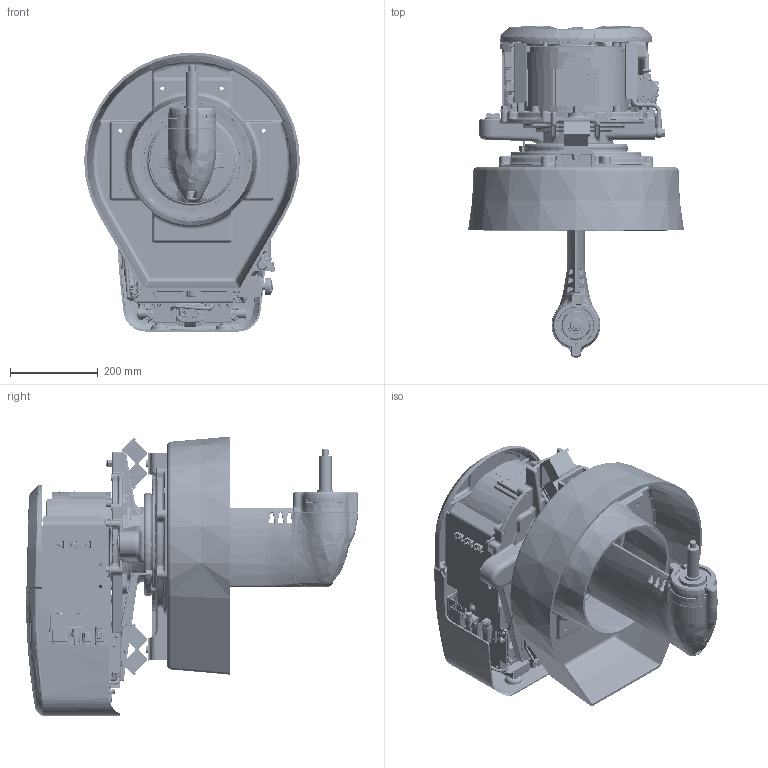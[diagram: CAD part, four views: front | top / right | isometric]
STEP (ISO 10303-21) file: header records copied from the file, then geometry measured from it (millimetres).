
FILE_DESCRIPTION((''),'2;1');
FILE_NAME('SDE_ASM','2024-11-04T17:39:04',('IB46307'),(''),'CREO PARAMETRIC BY PTC INC, 2022024','CREO PARAMETRIC BY PTC INC, 2022024','');
FILE_SCHEMA(('CONFIG_CONTROL_DESIGN'));
Length unit declared in the file: millimetre
Products named in the file (30): 596420E1_SW0010; 596420E1_SW0011; 596420E1_SW0011_ASM; 596420E1_SW0012; 596420E1_SW0012_ASM; 596420E1_SW0004; 596420E1_SW0003; DV5900-4520X_SW0001; DV5900-4200X_SW0001; DV5900-0900X_SW0001; DV5900-7615X_SW0001; DV5900-7700X_SW0002; DV5900-7310X_SW0001; DV5900-7720X_SW0001; 596420E1_SW0013; 596420E1_SW0013_ASM; SDE_BASE_ASM; DV5900-2240X_SW0001; DV5900-7540X_SW0001; DV5900-4940X_SW0001; DV5900-7640X_SW0001; 1V5900-7901X; 1V5900-7716X; DV5900-7900X_10_ASM; DV5900-0940X_SW0001; DV5900-0700X_SW0001F6; SDE_7_10_ASM; 596420-02900_SW0001; SDE_BED_ASM; SDE_ASM
Assembly tree (32 placements, depth 4):
  SDE_ASM
    SDE_BASE_ASM
      596420E1_SW0010
      596420E1_SW0011_ASM
        596420E1_SW0011
      596420E1_SW0012_ASM
        596420E1_SW0012
      596420E1_SW0004
      596420E1_SW0003
      DV5900-4520X_SW0001
      DV5900-4200X_SW0001
      DV5900-0900X_SW0001
      DV5900-7615X_SW0001
      DV5900-7700X_SW0002
      DV5900-7310X_SW0001
      DV5900-7720X_SW0001
      596420E1_SW0013_ASM
        596420E1_SW0013
    SDE_7_10_ASM
      DV5900-2240X_SW0001
      DV5900-7540X_SW0001
      DV5900-4940X_SW0001
      DV5900-7640X_SW0001
      DV5900-7900X_10_ASM
        1V5900-7901X
        1V5900-7716X  x4
      DV5900-0940X_SW0001
      DV5900-0700X_SW0001F6
    SDE_BED_ASM
      596420-02900_SW0001
Bounding box: 493.37 x 758.8 x 637.69 mm (x, y, z)
Surface area: 5096161.1 mm2
Topology: 26 solids, 833 shells, 17003 faces, 48269 edges, 31636 vertices
Faces by surface type: plane 5832, cylinder 5022, bspline 2745, torus 1537, cone 1052, sphere 529, extrusion 218, revolution 68
Entity records: 774429 total; most frequent: CARTESIAN_POINT 354379, ORIENTED_EDGE 86118, DIRECTION 83798, EDGE_CURVE 47607, VERTEX_POINT 31564, AXIS2_PLACEMENT_3D 31171, VECTOR 21388, LINE 21170
